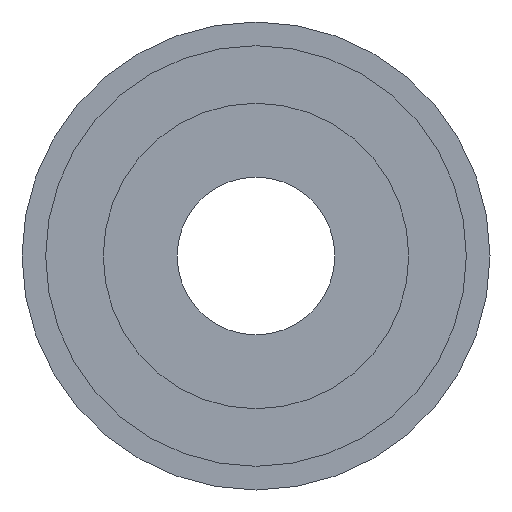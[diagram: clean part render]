
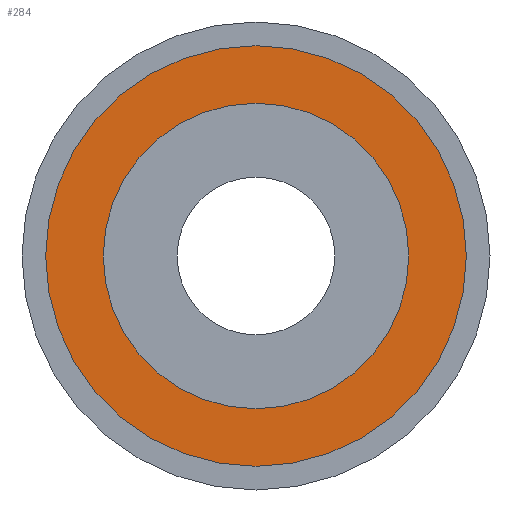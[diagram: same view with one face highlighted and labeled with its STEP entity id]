
A CAD part, front view. The second image highlights one B-rep face of the part: STEP entity #284.
In plain terms, the highlighted planar face has unit normal (0, -1, 0).
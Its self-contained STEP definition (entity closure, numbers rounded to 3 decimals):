
#83 = DIRECTION ( 'NONE',  ( 0., -1., 0. ) ) ;
#84 = CARTESIAN_POINT ( 'NONE',  ( 0., 15.2, 0. ) ) ;
#85 = AXIS2_PLACEMENT_3D ( 'NONE', #84, #83, #91 ) ;
#91 = DIRECTION ( 'NONE',  ( 0., 0., -1. ) ) ;
#99 = DIRECTION ( 'NONE',  ( 0., 0., -1. ) ) ;
#100 = DIRECTION ( 'NONE',  ( 0., 1., 0. ) ) ;
#101 = CARTESIAN_POINT ( 'NONE',  ( 0., 15.2, 0. ) ) ;
#102 = AXIS2_PLACEMENT_3D ( 'NONE', #101, #100, #99 ) ;
#103 = CIRCLE ( 'NONE', #102, 8. ) ;
#130 = CIRCLE ( 'NONE', #85, 5.81 ) ;
#283 = EDGE_LOOP ( 'NONE', ( #636, #782 ) ) ;
#284 = ADVANCED_FACE ( 'NONE', ( #718, #717 ), #716, .T. ) ;
#500 = VERTEX_POINT ( 'NONE', #1123 ) ;
#502 = EDGE_CURVE ( 'NONE', #500, #503, #1114, .T. ) ;
#503 = VERTEX_POINT ( 'NONE', #1126 ) ;
#509 = EDGE_CURVE ( 'NONE', #510, #511, #1146, .T. ) ;
#510 = VERTEX_POINT ( 'NONE', #1141 ) ;
#511 = VERTEX_POINT ( 'NONE', #1140 ) ;
#636 = ORIENTED_EDGE ( 'NONE', *, *, #781, .F. ) ;
#712 = DIRECTION ( 'NONE',  ( 0., 0., -1. ) ) ;
#713 = DIRECTION ( 'NONE',  ( 0., -1., 0. ) ) ;
#714 = CARTESIAN_POINT ( 'NONE',  ( 0., 15.2, 0. ) ) ;
#715 = AXIS2_PLACEMENT_3D ( 'NONE', #714, #713, #712 ) ;
#716 = PLANE ( 'NONE',  #715 ) ;
#717 = FACE_BOUND ( 'NONE', #783, .T. ) ;
#718 = FACE_OUTER_BOUND ( 'NONE', #283, .T. ) ;
#772 = EDGE_CURVE ( 'NONE', #511, #510, #130, .T. ) ;
#781 = EDGE_CURVE ( 'NONE', #503, #500, #103, .T. ) ;
#782 = ORIENTED_EDGE ( 'NONE', *, *, #502, .F. ) ;
#783 = EDGE_LOOP ( 'NONE', ( #784, #785 ) ) ;
#784 = ORIENTED_EDGE ( 'NONE', *, *, #509, .F. ) ;
#785 = ORIENTED_EDGE ( 'NONE', *, *, #772, .F. ) ;
#1114 = CIRCLE ( 'NONE', #1118, 8. ) ;
#1115 = CARTESIAN_POINT ( 'NONE',  ( 0., 15.2, 0. ) ) ;
#1116 = DIRECTION ( 'NONE',  ( 0., 1., 0. ) ) ;
#1117 = DIRECTION ( 'NONE',  ( 0., 0., -1. ) ) ;
#1118 = AXIS2_PLACEMENT_3D ( 'NONE', #1115, #1116, #1117 ) ;
#1123 = CARTESIAN_POINT ( 'NONE',  ( 0., 15.2, 8. ) ) ;
#1126 = CARTESIAN_POINT ( 'NONE',  ( 0., 15.2, -8. ) ) ;
#1140 = CARTESIAN_POINT ( 'NONE',  ( 0., 15.2, 5.81 ) ) ;
#1141 = CARTESIAN_POINT ( 'NONE',  ( 0., 15.2, -5.81 ) ) ;
#1142 = DIRECTION ( 'NONE',  ( 0., 0., -1. ) ) ;
#1143 = DIRECTION ( 'NONE',  ( 0., -1., 0. ) ) ;
#1144 = CARTESIAN_POINT ( 'NONE',  ( 0., 15.2, 0. ) ) ;
#1145 = AXIS2_PLACEMENT_3D ( 'NONE', #1144, #1143, #1142 ) ;
#1146 = CIRCLE ( 'NONE', #1145, 5.81 ) ;
